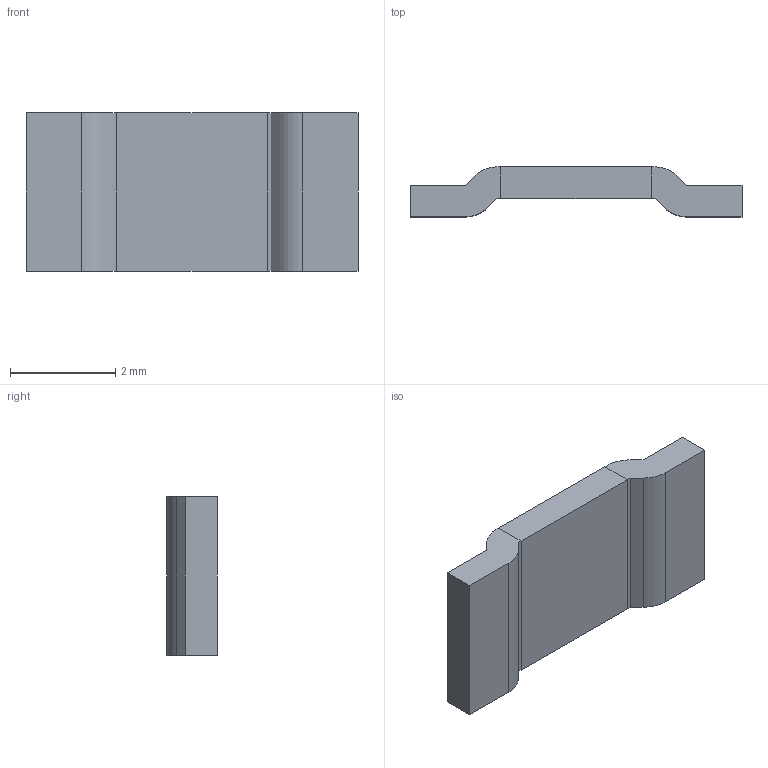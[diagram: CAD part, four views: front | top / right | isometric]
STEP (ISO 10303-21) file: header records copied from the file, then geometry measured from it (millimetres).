
FILE_DESCRIPTION (( 'STEP AP203' ), '1' );
FILE_NAME ('EBWK 2512-2m¦¸.STEP', '2023-11-01T05:47:57', ( 'meks@163.com' ), ( '' ), 'SwSTEP 2.0', 'SolidWorks 2020', '' );
FILE_SCHEMA (( 'CONFIG_CONTROL_DESIGN' ));
Length unit declared in the file: millimetre
Products named in the file (1): EBWK 2512-2m次
Bounding box: 6.3 x 0.95 x 3 mm (x, y, z)
Volume: 11.7 mm3; surface area: 58.4 mm2
Topology: 3 solids, 3 shells, 150 faces, 402 edges, 268 vertices
Faces by surface type: plane 110, bspline 28, cylinder 12
Entity records: 6403 total; most frequent: CARTESIAN_POINT 2737, ORIENTED_EDGE 804, DIRECTION 616, EDGE_CURVE 402, LINE 322, VECTOR 322, VERTEX_POINT 268, EDGE_LOOP 160
